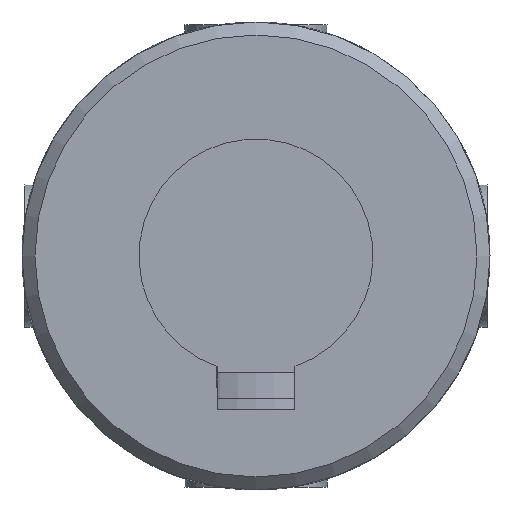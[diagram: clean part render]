
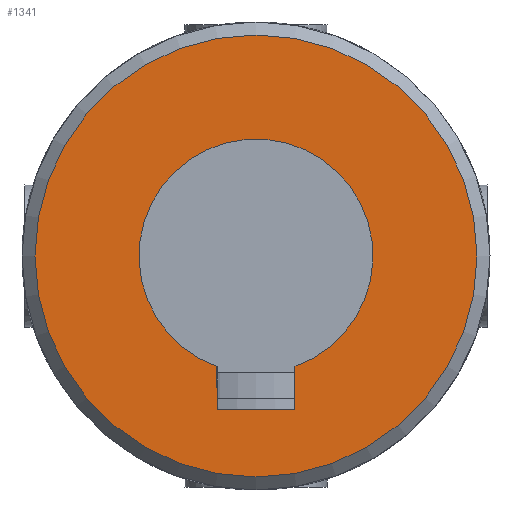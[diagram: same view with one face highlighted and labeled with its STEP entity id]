
A CAD part, front view. The second image highlights one B-rep face of the part: STEP entity #1341.
In plain terms, the highlighted planar face has unit normal (0, -1, 0).
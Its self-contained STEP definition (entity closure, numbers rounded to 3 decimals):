
#149=LINE('',#2401,#194);
#153=LINE('',#2428,#198);
#155=LINE('',#2436,#200);
#194=VECTOR('',#1744,3.315);
#198=VECTOR('',#1756,6.);
#200=VECTOR('',#1760,3.315);
#239=PLANE('',#1480);
#278=FACE_BOUND('',#454,.T.);
#340=FACE_OUTER_BOUND('',#453,.T.);
#453=EDGE_LOOP('',(#1129));
#454=EDGE_LOOP('',(#1130,#1131,#1132,#1133));
#527=CIRCLE('',#1467,9.);
#533=CIRCLE('',#1478,17.);
#629=VERTEX_POINT('',#2398);
#630=VERTEX_POINT('',#2400);
#633=VERTEX_POINT('',#2410);
#635=VERTEX_POINT('',#2426);
#644=VERTEX_POINT('',#2513);
#788=EDGE_CURVE('',#630,#629,#149,.T.);
#792=EDGE_CURVE('',#633,#630,#527,.T.);
#796=EDGE_CURVE('',#629,#635,#153,.T.);
#799=EDGE_CURVE('',#635,#633,#155,.T.);
#809=EDGE_CURVE('',#644,#644,#533,.T.);
#1129=ORIENTED_EDGE('',*,*,#809,.F.);
#1130=ORIENTED_EDGE('',*,*,#788,.T.);
#1131=ORIENTED_EDGE('',*,*,#796,.T.);
#1132=ORIENTED_EDGE('',*,*,#799,.T.);
#1133=ORIENTED_EDGE('',*,*,#792,.T.);
#1341=ADVANCED_FACE('',(#340,#278),#239,.F.);
#1467=AXIS2_PLACEMENT_3D('',#2411,#1750,#1751);
#1478=AXIS2_PLACEMENT_3D('',#2514,#1777,#1778);
#1480=AXIS2_PLACEMENT_3D('',#2738,#1785,#1786);
#1744=DIRECTION('',(0.,0.,-1.));
#1750=DIRECTION('center_axis',(0.,1.,0.));
#1751=DIRECTION('ref_axis',(0.333,0.,-0.943));
#1756=DIRECTION('',(-1.,0.,0.));
#1760=DIRECTION('',(0.,0.,1.));
#1777=DIRECTION('center_axis',(0.,1.,0.));
#1778=DIRECTION('ref_axis',(1.,0.,0.));
#1785=DIRECTION('center_axis',(0.,1.,0.));
#1786=DIRECTION('ref_axis',(0.,0.,1.));
#2398=CARTESIAN_POINT('',(3.,-45.5,-11.8));
#2400=CARTESIAN_POINT('',(3.,-45.5,-8.485));
#2401=CARTESIAN_POINT('',(3.,-45.5,-4.243));
#2410=CARTESIAN_POINT('',(-3.,-45.5,-8.485));
#2411=CARTESIAN_POINT('Origin',(0.,-45.5,0.));
#2426=CARTESIAN_POINT('',(-3.,-45.5,-11.8));
#2428=CARTESIAN_POINT('',(1.5,-45.5,-11.8));
#2436=CARTESIAN_POINT('',(-3.,-45.5,-5.9));
#2513=CARTESIAN_POINT('',(-17.,-45.5,0.));
#2514=CARTESIAN_POINT('Origin',(0.,-45.5,0.));
#2738=CARTESIAN_POINT('Origin',(0.,-45.5,0.));
